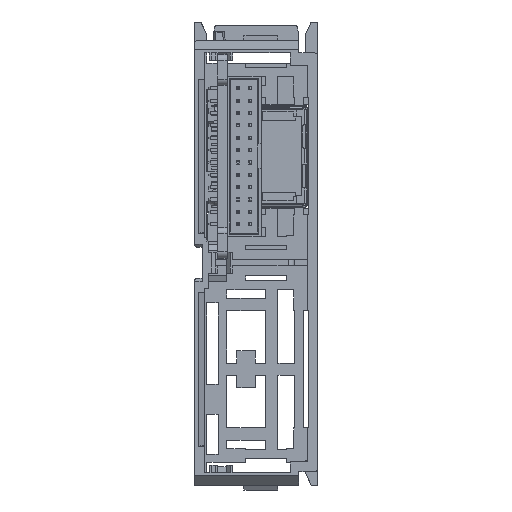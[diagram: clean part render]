
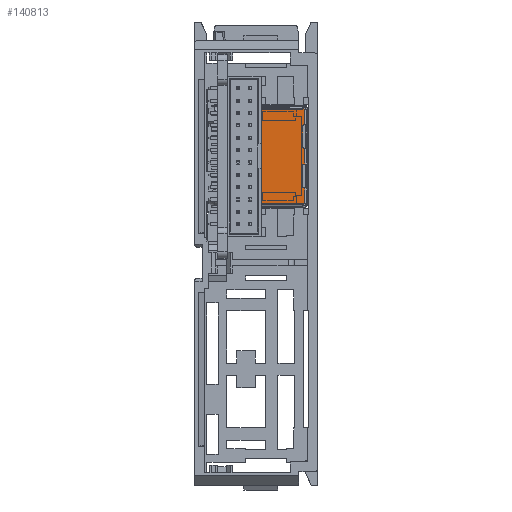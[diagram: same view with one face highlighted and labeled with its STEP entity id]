
A CAD part, front view. The second image highlights one B-rep face of the part: STEP entity #140813.
In plain terms, the highlighted planar face has unit normal (0, -1, 0) as drawn and (0, 1, 0) by its records, which use the part's own axes.
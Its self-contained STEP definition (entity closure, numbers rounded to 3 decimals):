
#122303=DIRECTION('',(0.,0.,-1.));
#122304=VECTOR('',#122303,0.3);
#122305=CARTESIAN_POINT('',(7.63,17.325,0.45));
#122306=LINE('',#122305,#122304);
#122437=DIRECTION('',(0.,0.,1.));
#122438=VECTOR('',#122437,0.3);
#122439=CARTESIAN_POINT('',(-7.63,17.325,0.15));
#122440=LINE('',#122439,#122438);
#122458=DIRECTION('',(-1.,0.,0.));
#122459=VECTOR('',#122458,2.5);
#122460=CARTESIAN_POINT('',(-5.13,17.325,0.15));
#122461=LINE('',#122460,#122459);
#122466=DIRECTION('',(0.,0.,1.));
#122467=VECTOR('',#122466,0.1);
#122468=CARTESIAN_POINT('',(-5.13,17.325,0.15));
#122469=LINE('',#122468,#122467);
#122470=CARTESIAN_POINT('',(-4.93,17.325,0.25));
#122471=DIRECTION('',(0.,1.,0.));
#122472=DIRECTION('',(-1.,0.,0.));
#122473=AXIS2_PLACEMENT_3D('',#122470,#122471,#122472);
#122475=DIRECTION('',(1.,0.,0.));
#122476=VECTOR('',#122475,3.48);
#122477=CARTESIAN_POINT('',(-4.93,17.325,0.45));
#122478=LINE('',#122477,#122476);
#122479=CARTESIAN_POINT('',(-1.45,17.325,0.25));
#122480=DIRECTION('',(0.,1.,0.));
#122481=DIRECTION('',(0.,0.,1.));
#122482=AXIS2_PLACEMENT_3D('',#122479,#122480,#122481);
#122484=DIRECTION('',(0.,0.,-1.));
#122485=VECTOR('',#122484,0.1);
#122486=CARTESIAN_POINT('',(-1.25,17.325,0.25));
#122487=LINE('',#122486,#122485);
#122488=DIRECTION('',(0.,0.,1.));
#122489=VECTOR('',#122488,0.1);
#122490=CARTESIAN_POINT('',(1.25,17.325,0.15));
#122491=LINE('',#122490,#122489);
#122492=CARTESIAN_POINT('',(1.45,17.325,0.25));
#122493=DIRECTION('',(0.,1.,0.));
#122494=DIRECTION('',(-1.,0.,0.));
#122495=AXIS2_PLACEMENT_3D('',#122492,#122493,#122494);
#122497=DIRECTION('',(1.,0.,0.));
#122498=VECTOR('',#122497,3.48);
#122499=CARTESIAN_POINT('',(1.45,17.325,0.45));
#122500=LINE('',#122499,#122498);
#122501=CARTESIAN_POINT('',(4.93,17.325,0.25));
#122502=DIRECTION('',(0.,1.,0.));
#122503=DIRECTION('',(0.,0.,1.));
#122504=AXIS2_PLACEMENT_3D('',#122501,#122502,#122503);
#122506=DIRECTION('',(0.,0.,1.));
#122507=VECTOR('',#122506,11.4);
#122508=CARTESIAN_POINT('',(7.63,17.325,0.45));
#122509=LINE('',#122508,#122507);
#122510=DIRECTION('',(-1.,0.,0.));
#122511=VECTOR('',#122510,15.26);
#122512=CARTESIAN_POINT('',(7.63,17.325,11.85));
#122513=LINE('',#122512,#122511);
#122514=DIRECTION('',(0.,0.,-1.));
#122515=VECTOR('',#122514,11.4);
#122516=CARTESIAN_POINT('',(-7.63,17.325,11.85));
#122517=LINE('',#122516,#122515);
#123582=DIRECTION('',(0.,0.,1.));
#123583=VECTOR('',#123582,0.1);
#123584=CARTESIAN_POINT('',(5.13,17.325,0.15));
#123585=LINE('',#123584,#123583);
#123606=DIRECTION('',(-1.,0.,0.));
#123607=VECTOR('',#123606,2.5);
#123608=CARTESIAN_POINT('',(1.25,17.325,0.15));
#123609=LINE('',#123608,#123607);
#123832=DIRECTION('',(-1.,0.,0.));
#123833=VECTOR('',#123832,2.5);
#123834=CARTESIAN_POINT('',(7.63,17.325,0.15));
#123835=LINE('',#123834,#123833);
#134041=CARTESIAN_POINT('',(1.25,17.325,0.15));
#134042=VERTEX_POINT('',#134041);
#134043=CARTESIAN_POINT('',(-1.25,17.325,0.15));
#134044=VERTEX_POINT('',#134043);
#134461=CARTESIAN_POINT('',(-7.63,17.325,0.15));
#134462=VERTEX_POINT('',#134461);
#134465=CARTESIAN_POINT('',(-5.13,17.325,0.15));
#134466=VERTEX_POINT('',#134465);
#134472=CARTESIAN_POINT('',(-1.25,17.325,0.25));
#134474=VERTEX_POINT('',#134472);
#134475=CARTESIAN_POINT('',(-1.45,17.325,0.45));
#134476=VERTEX_POINT('',#134475);
#134479=CARTESIAN_POINT('',(1.45,17.325,0.45));
#134480=CARTESIAN_POINT('',(4.93,17.325,0.45));
#134481=VERTEX_POINT('',#134479);
#134482=VERTEX_POINT('',#134480);
#134483=CARTESIAN_POINT('',(5.13,17.325,0.25));
#134484=VERTEX_POINT('',#134483);
#134485=CARTESIAN_POINT('',(5.13,17.325,0.15));
#134486=VERTEX_POINT('',#134485);
#134487=CARTESIAN_POINT('',(7.63,17.325,0.15));
#134488=VERTEX_POINT('',#134487);
#134489=CARTESIAN_POINT('',(7.63,17.325,0.45));
#134490=CARTESIAN_POINT('',(7.63,17.325,11.85));
#134491=VERTEX_POINT('',#134489);
#134492=VERTEX_POINT('',#134490);
#134493=CARTESIAN_POINT('',(-7.63,17.325,11.85));
#134494=VERTEX_POINT('',#134493);
#134495=CARTESIAN_POINT('',(-7.63,17.325,0.45));
#134496=VERTEX_POINT('',#134495);
#134497=CARTESIAN_POINT('',(-5.13,17.325,0.25));
#134498=VERTEX_POINT('',#134497);
#134499=CARTESIAN_POINT('',(-4.93,17.325,0.45));
#134500=VERTEX_POINT('',#134499);
#134501=CARTESIAN_POINT('',(1.25,17.325,0.25));
#134502=VERTEX_POINT('',#134501);
#140773=CARTESIAN_POINT('',(0.,17.325,6.));
#140774=DIRECTION('',(0.,1.,0.));
#140775=DIRECTION('',(0.,0.,1.));
#140776=AXIS2_PLACEMENT_3D('',#140773,#140774,#140775);
#140777=PLANE('',#140776);
#140778=ORIENTED_EDGE('',*,*,#140745,.F.);
#140779=ORIENTED_EDGE('',*,*,#140765,.F.);
#140781=ORIENTED_EDGE('',*,*,#140780,.T.);
#140783=ORIENTED_EDGE('',*,*,#140782,.T.);
#140785=ORIENTED_EDGE('',*,*,#140784,.T.);
#140787=ORIENTED_EDGE('',*,*,#140786,.T.);
#140789=ORIENTED_EDGE('',*,*,#140788,.T.);
#140791=ORIENTED_EDGE('',*,*,#140790,.F.);
#140793=ORIENTED_EDGE('',*,*,#140792,.T.);
#140795=ORIENTED_EDGE('',*,*,#140794,.T.);
#140797=ORIENTED_EDGE('',*,*,#140796,.T.);
#140799=ORIENTED_EDGE('',*,*,#140798,.T.);
#140801=ORIENTED_EDGE('',*,*,#140800,.F.);
#140803=ORIENTED_EDGE('',*,*,#140802,.F.);
#140804=ORIENTED_EDGE('',*,*,#140540,.F.);
#140806=ORIENTED_EDGE('',*,*,#140805,.T.);
#140808=ORIENTED_EDGE('',*,*,#140807,.T.);
#140810=ORIENTED_EDGE('',*,*,#140809,.T.);
#140811=EDGE_LOOP('',(#140778,#140779,#140781,#140783,#140785,#140787,#140789,
#140791,#140793,#140795,#140797,#140799,#140801,#140803,#140804,#140806,#140808,
#140810));
#140812=FACE_OUTER_BOUND('',#140811,.F.);
#140813=ADVANCED_FACE('',(#140812),#140777,.T.);
#122474=CIRCLE('',#122473,0.2);
#122483=CIRCLE('',#122482,0.2);
#122496=CIRCLE('',#122495,0.2);
#122505=CIRCLE('',#122504,0.2);
#140540=EDGE_CURVE('',#134491,#134488,#122306,.T.);
#140745=EDGE_CURVE('',#134462,#134496,#122440,.T.);
#140765=EDGE_CURVE('',#134466,#134462,#122461,.T.);
#140780=EDGE_CURVE('',#134466,#134498,#122469,.T.);
#140782=EDGE_CURVE('',#134498,#134500,#122474,.T.);
#140784=EDGE_CURVE('',#134500,#134476,#122478,.T.);
#140786=EDGE_CURVE('',#134476,#134474,#122483,.T.);
#140788=EDGE_CURVE('',#134474,#134044,#122487,.T.);
#140790=EDGE_CURVE('',#134042,#134044,#123609,.T.);
#140792=EDGE_CURVE('',#134042,#134502,#122491,.T.);
#140794=EDGE_CURVE('',#134502,#134481,#122496,.T.);
#140796=EDGE_CURVE('',#134481,#134482,#122500,.T.);
#140798=EDGE_CURVE('',#134482,#134484,#122505,.T.);
#140800=EDGE_CURVE('',#134486,#134484,#123585,.T.);
#140802=EDGE_CURVE('',#134488,#134486,#123835,.T.);
#140805=EDGE_CURVE('',#134491,#134492,#122509,.T.);
#140807=EDGE_CURVE('',#134492,#134494,#122513,.T.);
#140809=EDGE_CURVE('',#134494,#134496,#122517,.T.);
